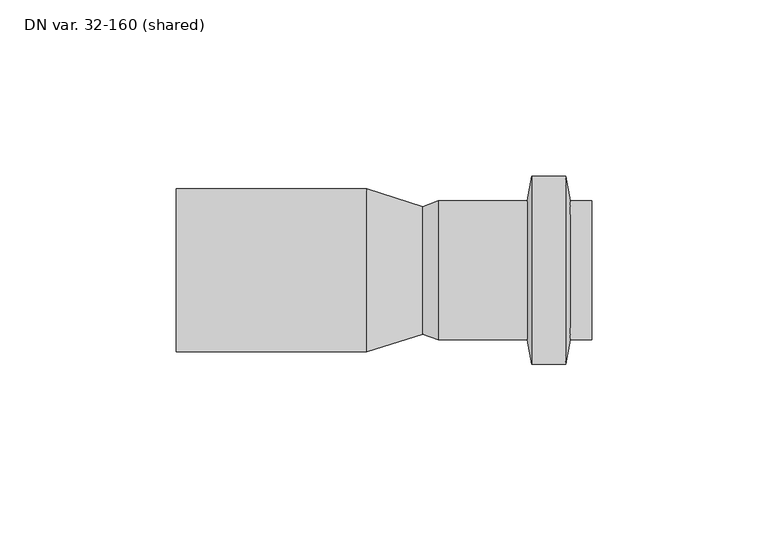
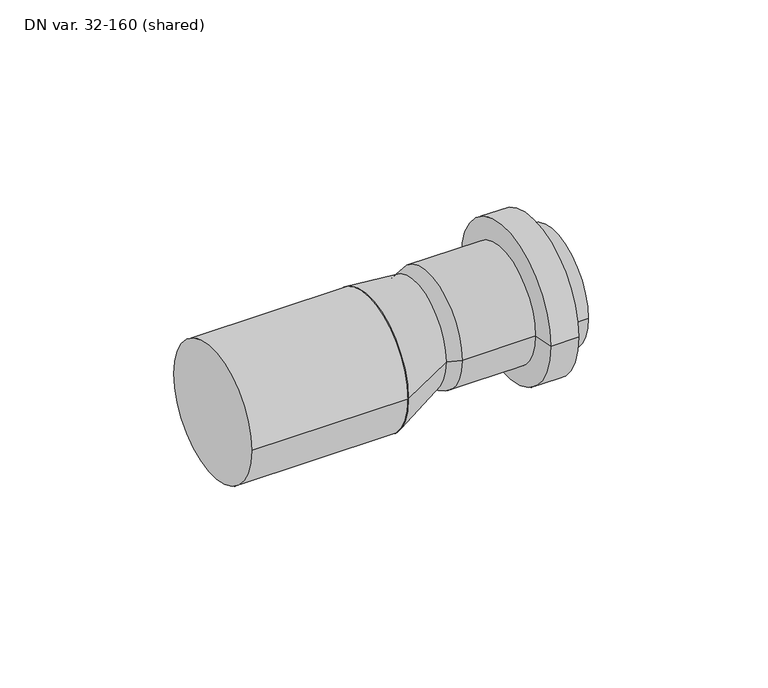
"""IFC4 building model written with IfcOpenShell, lengths in millimetres: pipe fitting geometry, ZZZ_Master 3+ reducer-sh_Pipelife : DN var. 32-160 (shared)."""

from ifc_helpers import new_model, si_unit, point, frame, origin, origin_2d, place, context, project, spatial, polyline, circle_curve, trimmed, segment, composite_curve, outline, extrude, source, transform, mapped, element, save
from ifc_brep_helpers import plane_surface, cylinder_surface, revolved_surface, spline_surface, advanced_brep


def dn_var_32_160_shared_f9a62636(model_context):
    return source(origin(), model_context, "Body", "SolidModel", [
        advanced_brep(
        [(34.95, 18.1, 4.8), (34.95, -18.1, 4.8), (82.75, -18.1, 4.8), (82.75, 18.1, 4.8), (39.3459639, 19.7, 4.8), (39.3459639, -19.7, 4.8), (64.55, 19.7, 4.8), (64.55, -19.7, 4.8), (65.7754725, 26.65, 4.8), (65.7754725, -26.65, 4.8), (75.4245275, 26.65, 4.8), (75.4245275, -26.65, 4.8), (76.65, 19.7, 4.8), (76.65, -19.7, 4.8), (82.75, 19.7, 4.8), (82.75, -19.7, 4.8)],
        [
            (0, 1, circle_curve(frame((34.95, 0.0, 4.8), z_axis=(-1.0, 0.0, 0.0), x_axis=(0.0, -1.0000000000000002, 0.0)), 18.1)),
            (1, 2),
            (2, 3, circle_curve(frame((82.75, 0.0, 4.8), z_axis=(1.0, 0.0, 0.0), x_axis=(0.0, -1.0000000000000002, 0.0)), 18.1)),
            (3, 0),
            (1, 0, circle_curve(frame((34.95, 0.0, 4.8), z_axis=(-1.0, 0.0, 0.0), x_axis=(0.0, -1.0000000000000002, 0.0)), 18.1)),
            (3, 2, circle_curve(frame((82.75, 0.0, 4.8), z_axis=(1.0, 0.0, 0.0), x_axis=(0.0, -1.0000000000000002, 0.0)), 18.1)),
            (4, 5, circle_curve(frame((39.3459639, 0.0, 4.8), z_axis=(-1.0, 0.0, 0.0), x_axis=(0.0, -1.0000000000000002, 0.0)), 19.7)),
            (5, 1),
            (0, 4),
            (5, 4, circle_curve(frame((39.3459639, 0.0, 4.8), z_axis=(-1.0, 0.0, 0.0), x_axis=(0.0, -1.0000000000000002, 0.0)), 19.7)),
            (6, 7, circle_curve(frame((64.55, 0.0, 4.8), z_axis=(-1.0, 0.0, 0.0), x_axis=(0.0, -1.0000000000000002, 0.0)), 19.7)),
            (7, 5),
            (4, 6),
            (7, 6, circle_curve(frame((64.55, 0.0, 4.8), z_axis=(-1.0, 0.0, 0.0), x_axis=(0.0, -1.0000000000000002, 0.0)), 19.7)),
            (8, 9, circle_curve(frame((65.7754725, 0.0, 4.8), z_axis=(-1.0, 0.0, 0.0), x_axis=(0.0, -1.0000000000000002, 0.0)), 26.65)),
            (9, 7),
            (6, 8),
            (9, 8, circle_curve(frame((65.7754725, 0.0, 4.8), z_axis=(-1.0, 0.0, 0.0), x_axis=(0.0, -1.0000000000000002, 0.0)), 26.65)),
            (10, 11, circle_curve(frame((75.4245275, 0.0, 4.8), z_axis=(-1.0, 0.0, 0.0), x_axis=(0.0, -1.0000000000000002, 0.0)), 26.65)),
            (11, 9),
            (8, 10),
            (11, 10, circle_curve(frame((75.4245275, 0.0, 4.8), z_axis=(-1.0, 0.0, 0.0), x_axis=(0.0, -1.0000000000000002, 0.0)), 26.65)),
            (12, 13, circle_curve(frame((76.65, 0.0, 4.8), z_axis=(-1.0, 0.0, 0.0), x_axis=(0.0, -1.0000000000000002, 0.0)), 19.7)),
            (13, 11),
            (10, 12),
            (13, 12, circle_curve(frame((76.65, 0.0, 4.8), z_axis=(-1.0, 0.0, 0.0), x_axis=(0.0, -1.0000000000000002, 0.0)), 19.7)),
            (14, 15, circle_curve(frame((82.75, 0.0, 4.8), z_axis=(-1.0, 0.0, 0.0), x_axis=(0.0, -1.0000000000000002, 0.0)), 19.7)),
            (15, 13),
            (12, 14),
            (15, 14, circle_curve(frame((82.75, 0.0, 4.8), z_axis=(-1.0, 0.0, 0.0), x_axis=(0.0, -1.0000000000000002, 0.0)), 19.7)),
            (2, 15),
            (14, 3),
        ],
        [
            revolved_surface(polyline([(82.75, -18.100000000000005, 4.8), (34.949999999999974, -18.100000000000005, 4.8)]), (92.75, 0.0, 4.8), (1.0000000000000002, 0.0, 0.0)),
            revolved_surface(polyline([(34.95, -18.1, 4.8), (39.3459639, -19.7, 4.8)]), (92.75, 0.0, 4.8), (1.0000000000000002, 0.0, 0.0)),
            cylinder_surface(frame((92.75, 0.0, 4.8), z_axis=(1.0000000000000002, 0.0, 0.0), x_axis=(0.0, -1.0000000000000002, 0.0)), 19.7),
            revolved_surface(polyline([(64.55, -19.7, 4.8), (65.7754725, -26.65, 4.8)]), (92.75, 0.0, 4.8), (1.0000000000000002, 0.0, 0.0)),
            cylinder_surface(frame((92.75, 0.0, 4.8), z_axis=(1.0000000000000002, 0.0, 0.0), x_axis=(0.0, -1.0000000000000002, 0.0)), 26.65),
            revolved_surface(polyline([(75.4245275, -26.65, 4.8), (76.65, -19.7, 4.8)]), (92.75, 0.0, 4.8), (1.0000000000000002, 0.0, 0.0)),
            plane_surface(frame((82.75, 0.0, 4.8), z_axis=(1.0, 0.0, 0.0), x_axis=(0.0, -1.0, 0.0))),
        ],
        [
            (0, [[1, 2, 3, 4]]),
            (0, [[5, -4, 6, -2]]),
            (1, [[7, 8, -1, 9]]),
            (1, [[10, -9, -5, -8]]),
            (2, [[11, 12, -7, 13]]),
            (2, [[14, -13, -10, -12]]),
            (3, [[15, 16, -11, 17]]),
            (3, [[18, -17, -14, -16]]),
            (4, [[19, 20, -15, 21]]),
            (4, [[22, -21, -18, -20]]),
            (5, [[23, 24, -19, 25]]),
            (5, [[26, -25, -22, -24]]),
            (2, [[27, 28, -23, 29]]),
            (2, [[30, -29, -26, -28]]),
            (6, [[-3, 31, -27, 32]]),
            (6, [[-6, -32, -30, -31]]),
        ],
    ),
        advanced_brep(
        [(34.95, -18.1, 4.8), (34.95, 18.1, 4.8), (18.95, -23.1, 0.0), (18.95, 23.1, 0.0)],
        [
            (0, 1, circle_curve(frame((34.95, 0.0, 4.8), z_axis=(1.0, 0.0, 0.0), x_axis=(0.0, 1.0, 0.0)), 18.1)),
            (1, 0, circle_curve(frame((34.95, 0.0, 4.8), z_axis=(1.0, 0.0, 0.0), x_axis=(0.0, 1.0, 0.0)), 18.1)),
            (2, 3, circle_curve(frame((18.95, 0.0, 0.0), z_axis=(-1.0, 0.0, 0.0), x_axis=(0.0, 1.0, 0.0)), 23.1)),
            (3, 2, circle_curve(frame((18.95, 0.0, 0.0), z_axis=(-1.0, 0.0, 0.0), x_axis=(0.0, 1.0, 0.0)), 23.1)),
            (3, 1),
            (0, 2),
        ],
        [
            plane_surface(frame((34.95, 0.0, 4.8), z_axis=(1.0, 0.0, 0.0), x_axis=(0.0, 0.0, -1.0))),
            plane_surface(frame((18.95, 0.0, 0.0), z_axis=(-1.0, 0.0, 0.0), x_axis=(0.0, 0.0, -1.0))),
            spline_surface(2, 1, [[(18.95, -23.1, 0.0), (34.95, -18.1, 4.8)], [(18.95, -23.1, -23.1), (34.95, -18.1, -13.3)], [(18.95, 0.0, -23.1), (34.95, 0.0, -13.3)], [(18.95, 23.1, -23.1), (34.95, 18.1, -13.3)], [(18.95, 23.1, 0.0), (34.95, 18.1, 4.8)]], [3, 2, 3], [2, 2], [0.0, 1.0, 2.0], [0.0, 1.0], weights=[[1.0, 1.0], [0.7071067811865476, 0.7071067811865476], [1.0, 1.0], [0.7071067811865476, 0.7071067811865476], [1.0, 1.0]]),
            spline_surface(2, 1, [[(18.95, 23.1, 0.0), (34.95, 18.1, 4.8)], [(18.95, 23.1, 23.1), (34.95, 18.1, 22.900000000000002)], [(18.95, 0.0, 23.1), (34.95, 0.0, 22.900000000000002)], [(18.95, -23.1, 23.1), (34.95, -18.1, 22.900000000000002)], [(18.95, -23.1, 0.0), (34.95, -18.1, 4.8)]], [3, 2, 3], [2, 2], [0.0, 1.0, 2.0], [0.0, 1.0], weights=[[1.0, 1.0], [0.7071067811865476, 0.7071067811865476], [1.0, 1.0], [0.7071067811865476, 0.7071067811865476], [1.0, 1.0]]),
        ],
        [
            (0, [[1, 2]]),
            (1, [[3, 4]]),
            (2, [[-4, 5, -1, 6]]),
            (3, [[-3, -6, -2, -5]]),
        ],
    ),
        extrude(outline(composite_curve([segment(trimmed(circle_curve(origin_2d(), 23.1), [point((-23.1, 0.0))], [point((23.1, 0.0))], False, "CARTESIAN"), True, "CONTINUOUS"), segment(trimmed(circle_curve(origin_2d(), 23.1), [point((23.1, 0.0))], [point((-23.1, 0.0))], False, "CARTESIAN"), True, "CONTINUOUS")], self_intersect=False)), frame((-34.95, 0.0, 0.0), z_axis=(1.0, 0.0, 0.0), x_axis=(0.0, 1.0, 0.0)), (0.0, 0.0, 1.0), 53.9),
    ])


if __name__ == "__main__":
    model = new_model("IFC4")
    model_context = context("Model", 3, world=origin())
    ifc_project = project(units=[si_unit("LENGTHUNIT", "METRE", prefix="MILLI")], contexts=[model_context])
    site = spatial("IfcSite", under=ifc_project)
    building = spatial("IfcBuilding", under=site)
    placement = place(None, origin())
    dn_var_32_160_shared_shape = dn_var_32_160_shared_f9a62636(model_context)
    element("IfcPipeFitting", 1, ObjectType="ZZZ_Master 3+ reducer-sh_Pipelife : DN var. 32-160 (shared)", at=placement, inside=building, context=model_context, shape_type="MappedRepresentation", body=[
        mapped(dn_var_32_160_shared_shape, transform((0.0, 0.0, 0.0), x_axis=(1.0, 0.0, 0.0), y_axis=(0.0, 1.0, 0.0), z_axis=(0.0, 0.0, 1.0))),
    ])
    save(model, "model.ifc")
